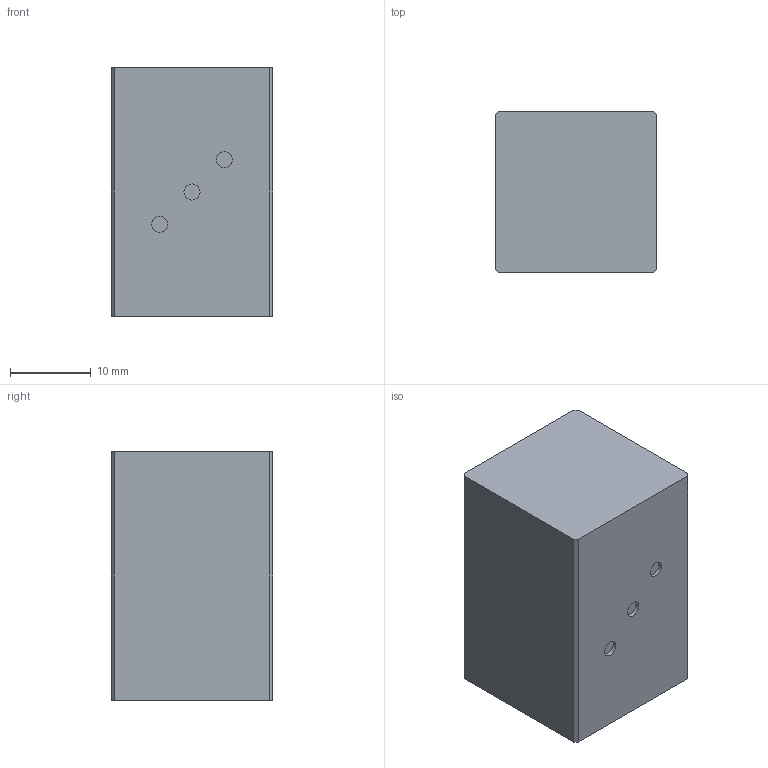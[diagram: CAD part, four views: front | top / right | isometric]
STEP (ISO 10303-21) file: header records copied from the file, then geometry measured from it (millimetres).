
FILE_DESCRIPTION(('Open CASCADE Model'),'2;1');
FILE_NAME('Open CASCADE Shape Model','2026-08-23T08:04:37',('Author'),( 'Open CASCADE'),'Open CASCADE STEP processor 7.9','Open CASCADE 7.9' ,'Unknown');
FILE_SCHEMA(('AUTOMOTIVE_DESIGN { 1 0 10303 214 1 1 1 1 }'));
Length unit declared in the file: millimetre
Products named in the file (2): =>[0:1:1:2]; COMPOUND
Assembly tree (1 placements, depth 2):
  =>[0:1:1:2]
    COMPOUND
Bounding box: 20 x 20 x 30.75 mm (x, y, z)
Volume: 12285.4 mm3; surface area: 3240 mm2
Topology: 1 solids, 1 shells, 16 faces, 33 edges, 22 vertices
Faces by surface type: plane 13, cylinder 3
Full cylindrical faces by diameter (mm): 2 x3
Entity records: 905 total; most frequent: CARTESIAN_POINT 157, DIRECTION 138, LINE 87, VECTOR 87, ORIENTED_EDGE 66, PCURVE 66, DEFINITIONAL_REPRESENTATION 66, EDGE_CURVE 33
